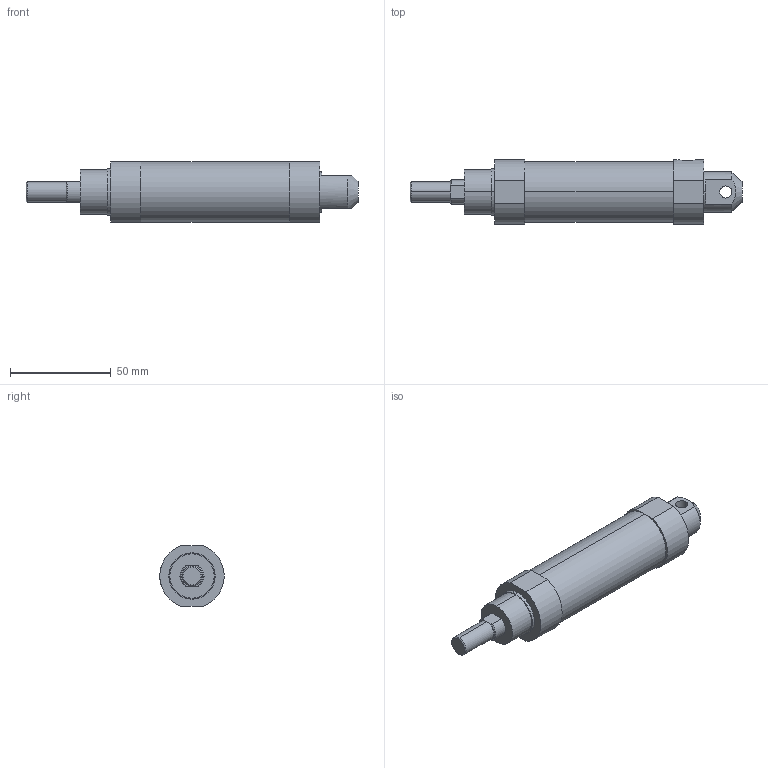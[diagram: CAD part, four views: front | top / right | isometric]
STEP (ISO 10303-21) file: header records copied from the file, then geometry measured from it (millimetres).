
FILE_DESCRIPTION (( 'STEP AP203' ), '1' );
FILE_NAME ('J#1-25-25-C.STEP', '2016-03-08T06:46:26', ( '' ), ( '' ), 'SwSTEP 2.0', 'SolidWorks 2014', '' );
FILE_SCHEMA (( 'CONFIG_CONTROL_DESIGN' ));
Length unit declared in the file: millimetre
Products named in the file (1): J#1-25-25-C
Bounding box: 165 x 32 x 30 mm (x, y, z)
Volume: 87571 mm3; surface area: 15261.1 mm2
Topology: 1 solids, 1 shells, 49 faces, 112 edges, 70 vertices
Faces by surface type: plane 23, cylinder 20, cone 6
Entity records: 1561 total; most frequent: CARTESIAN_POINT 350, DIRECTION 250, ORIENTED_EDGE 224, EDGE_CURVE 112, AXIS2_PLACEMENT_3D 98, VERTEX_POINT 70, EDGE_LOOP 56, LINE 54
